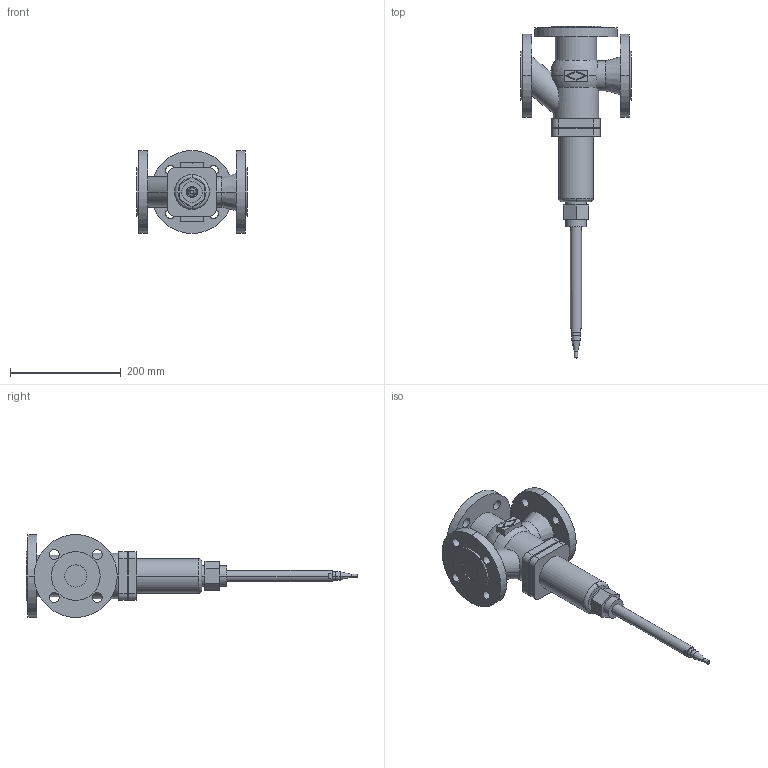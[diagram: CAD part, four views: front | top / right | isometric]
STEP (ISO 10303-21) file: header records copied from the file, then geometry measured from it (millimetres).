
FILE_DESCRIPTION( ( '' ), '1' );
FILE_NAME( 'F:/DE-SHS/TB/OR/04-Sonstiges/daten/files_3d/773-Mischventil/773-Mischventil_PN25/c000006172.stp', '2016-04-11T09:10:05', ( '' ), ( '' ), ' ', ' ', ' ' );
FILE_SCHEMA( ( 'CONFIG_CONTROL_DESIGN' ) );
Length unit declared in the file: millimetre
Products named in the file (1): 1
Bounding box: 200 x 600.44 x 150 mm (x, y, z)
Volume: 2631791.8 mm3; surface area: 251069.9 mm2
Topology: 1 solids, 1 shells, 141 faces, 350 edges, 232 vertices
Faces by surface type: cylinder 72, plane 60, cone 4, sphere 3, torus 2
Entity records: 5140 total; most frequent: CARTESIAN_POINT 1532, DIRECTION 794, ORIENTED_EDGE 700, EDGE_CURVE 350, AXIS2_PLACEMENT_3D 314, VERTEX_POINT 232, EDGE_LOOP 186, CIRCLE 170
